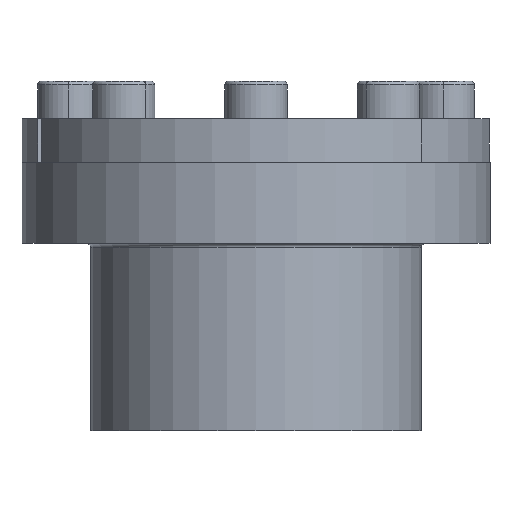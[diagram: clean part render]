
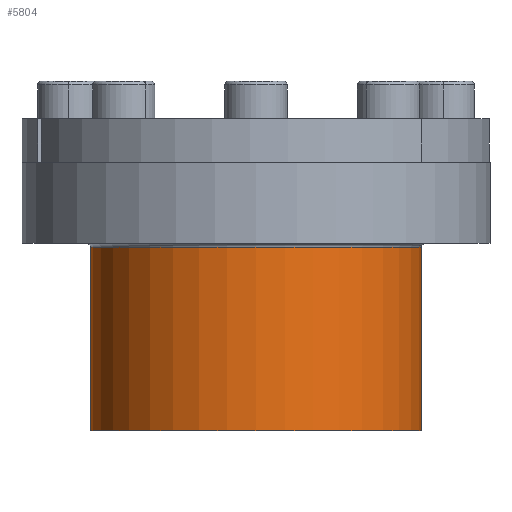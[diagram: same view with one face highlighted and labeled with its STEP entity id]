
A CAD part, front view. The second image highlights one B-rep face of the part: STEP entity #5804.
In plain terms, the highlighted cylindrical face has radius 26.5 mm (diameter 53 mm), a partial arc.
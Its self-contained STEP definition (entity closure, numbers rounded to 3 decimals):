
#1509 = CARTESIAN_POINT ( 'NONE',  ( -26.5, 0., -8.6 ) ) ;
#1638 = CARTESIAN_POINT ( 'NONE',  ( -26.5, 0., -38. ) ) ;
#1649 = CARTESIAN_POINT ( 'NONE',  ( -26.5, 0., -8. ) ) ;
#2252 = LINE ( 'NONE', #4164, #9921 ) ;
#2466 = VERTEX_POINT ( 'NONE', #1638 ) ;
#2845 = DIRECTION ( 'NONE',  ( 0., 0., -1. ) ) ;
#2922 = CYLINDRICAL_SURFACE ( 'NONE', #5150, 26.5 ) ;
#3594 = DIRECTION ( 'NONE',  ( 0., 0., -1. ) ) ;
#4003 = CARTESIAN_POINT ( 'NONE',  ( 0., 0., -8.6 ) ) ;
#4164 = CARTESIAN_POINT ( 'NONE',  ( 26.5, 0., -8. ) ) ;
#4172 = FACE_OUTER_BOUND ( 'NONE', #9478, .T. ) ;
#4518 = EDGE_CURVE ( 'NONE', #6224, #2466, #6447, .T. ) ;
#4599 = DIRECTION ( 'NONE',  ( 0., 0., -1. ) ) ;
#4801 = ORIENTED_EDGE ( 'NONE', *, *, #10042, .F. ) ;
#5015 = DIRECTION ( 'NONE',  ( -1., 0., 0. ) ) ;
#5150 = AXIS2_PLACEMENT_3D ( 'NONE', #9627, #3594, #10686 ) ;
#5252 = AXIS2_PLACEMENT_3D ( 'NONE', #8850, #2845, #9853 ) ;
#5290 = CIRCLE ( 'NONE', #5252, 26.5 ) ;
#5710 = ORIENTED_EDGE ( 'NONE', *, *, #12234, .T. ) ;
#5804 = ADVANCED_FACE ( 'NONE', ( #4172 ), #2922, .T. ) ;
#6224 = VERTEX_POINT ( 'NONE', #1509 ) ;
#6447 = LINE ( 'NONE', #1649, #11466 ) ;
#6893 = VERTEX_POINT ( 'NONE', #7160 ) ;
#7160 = CARTESIAN_POINT ( 'NONE',  ( 26.5, 0., -38. ) ) ;
#7222 = AXIS2_PLACEMENT_3D ( 'NONE', #4003, #11003, #5015 ) ;
#8834 = EDGE_CURVE ( 'NONE', #6893, #2466, #5290, .T. ) ;
#8850 = CARTESIAN_POINT ( 'NONE',  ( 0., 0., -38. ) ) ;
#9478 = EDGE_LOOP ( 'NONE', ( #4801, #5710, #10346, #10939 ) ) ;
#9627 = CARTESIAN_POINT ( 'NONE',  ( 0., 0., -8. ) ) ;
#9853 = DIRECTION ( 'NONE',  ( -1., 0., 0. ) ) ;
#9921 = VECTOR ( 'NONE', #11163, 1000. ) ;
#10042 = EDGE_CURVE ( 'NONE', #11563, #6893, #2252, .T. ) ;
#10346 = ORIENTED_EDGE ( 'NONE', *, *, #4518, .T. ) ;
#10686 = DIRECTION ( 'NONE',  ( -1., 0., 0. ) ) ;
#10939 = ORIENTED_EDGE ( 'NONE', *, *, #8834, .F. ) ;
#11003 = DIRECTION ( 'NONE',  ( 0., 0., -1. ) ) ;
#11163 = DIRECTION ( 'NONE',  ( 0., 0., -1. ) ) ;
#11466 = VECTOR ( 'NONE', #4599, 1000. ) ;
#11563 = VERTEX_POINT ( 'NONE', #11685 ) ;
#11685 = CARTESIAN_POINT ( 'NONE',  ( 26.5, 0., -8.6 ) ) ;
#11939 = CIRCLE ( 'NONE', #7222, 26.5 ) ;
#12234 = EDGE_CURVE ( 'NONE', #11563, #6224, #11939, .T. ) ;
